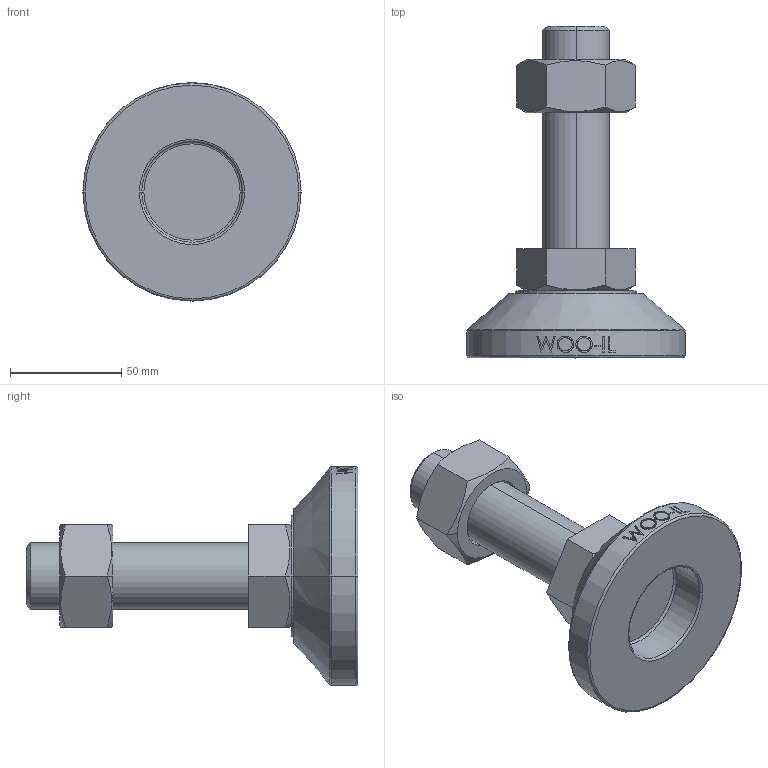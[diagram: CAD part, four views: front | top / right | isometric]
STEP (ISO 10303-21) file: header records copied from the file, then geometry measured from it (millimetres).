
FILE_DESCRIPTION (( 'STEP AP214' ), '1' );
FILE_NAME ('MF98-M30-100.step', '2021-02-03T08:23:53', ( '' ), ( '' ), 'SwSTEP 2.0', 'SolidWorks 2019', '' );
FILE_SCHEMA (( 'AUTOMOTIVE_DESIGN' ));
Length unit declared in the file: millimetre
Products named in the file (2): MF98-M30-100
Bounding box: 98 x 149 x 98 mm (x, y, z)
Volume: 283986.7 mm3; surface area: 46510 mm2
Topology: 3 solids, 3 shells, 106 faces, 243 edges, 154 vertices
Faces by surface type: plane 48, cylinder 18, bspline 16, cone 14, torus 10
Entity records: 4554 total; most frequent: CARTESIAN_POINT 2211, ORIENTED_EDGE 486, DIRECTION 439, EDGE_CURVE 243, AXIS2_PLACEMENT_3D 170, VERTEX_POINT 154, EDGE_LOOP 119, FACE_OUTER_BOUND 106
